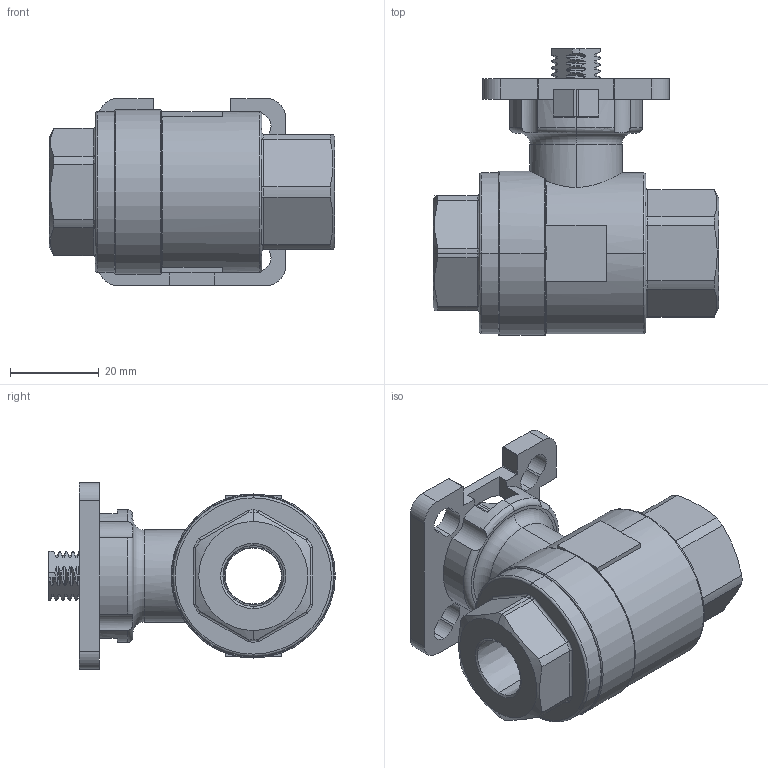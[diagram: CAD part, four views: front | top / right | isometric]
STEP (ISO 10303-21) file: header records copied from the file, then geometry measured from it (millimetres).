
FILE_DESCRIPTION (( 'STEP AP203' ), '1' );
FILE_NAME ('S2F-2.STEP', '2019-04-11T15:18:06', ( '' ), ( '' ), 'SwSTEP 2.0', 'SolidWorks 2017', '' );
FILE_SCHEMA (( 'CONFIG_CONTROL_DESIGN' ));
Length unit declared in the file: inch
Products named in the file (2): S2F-2
Bounding box: 64.52 x 64.77 x 42.16 mm (x, y, z)
Volume: 59663 mm3; surface area: 17651.3 mm2
Topology: 1 solids, 1 shells, 305 faces, 840 edges, 544 vertices
Faces by surface type: cylinder 107, plane 91, bspline 55, torus 35, cone 17
Entity records: 26958 total; most frequent: CARTESIAN_POINT 19680, ORIENTED_EDGE 1680, DIRECTION 1310, EDGE_CURVE 840, VERTEX_POINT 544, AXIS2_PLACEMENT_3D 493, EDGE_LOOP 326, VECTOR 324
